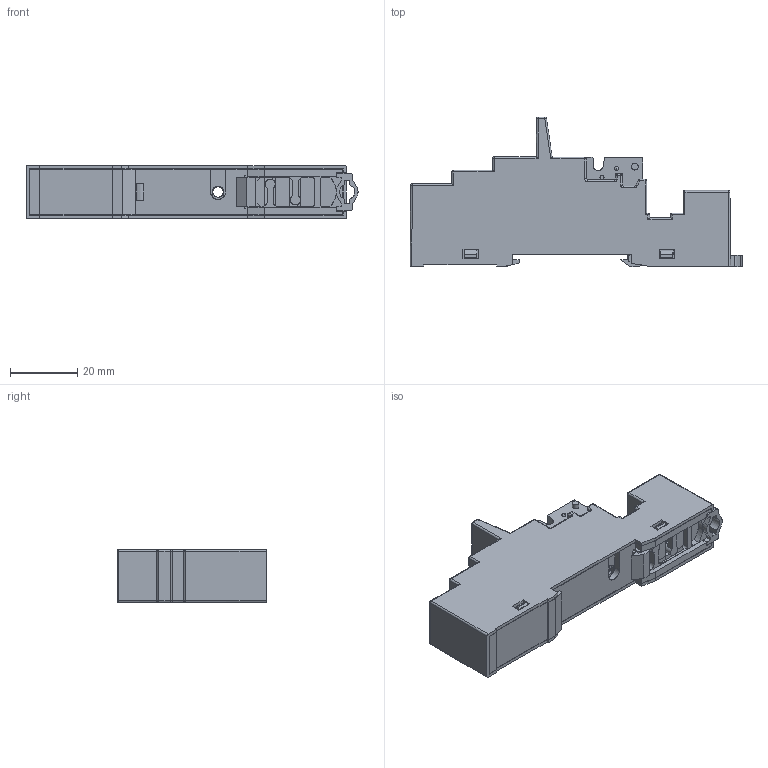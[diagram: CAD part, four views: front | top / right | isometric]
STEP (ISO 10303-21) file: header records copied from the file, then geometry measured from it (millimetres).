
FILE_DESCRIPTION(('STEP AP214'),'2;1');
FILE_NAME('9751.stp','2013-03-25T11:17:57',(''),(''),'2007.1.106','THINKDESIGN','');
FILE_SCHEMA(('AUTOMOTIVE_DESIGN'));
Length unit declared in the file: millimetre
Products named in the file (1): top
Bounding box: 99 x 44.7 x 15.8 mm (x, y, z)
Surface area: 26202.3 mm2 (no closed solid volume)
Topology: 0 solids, 0 shells, 787 faces, 4449 edges, 4419 vertices
Faces by surface type: plane 561, cylinder 185, bspline 41
Full cylindrical faces by diameter (mm): 1.2 x2, 2 x2, 3 x2, 4.43 x1, 5.6 x1
Entity records: 39398 total; most frequent: CARTESIAN_POINT 13322, DIRECTION 5757, COMPOSITE_CURVE_SEGMENT 4417, TRIMMED_CURVE 3937, VECTOR 3611, LINE 3611, AXIS2_PLACEMENT_3D 1073, STYLED_ITEM 789
